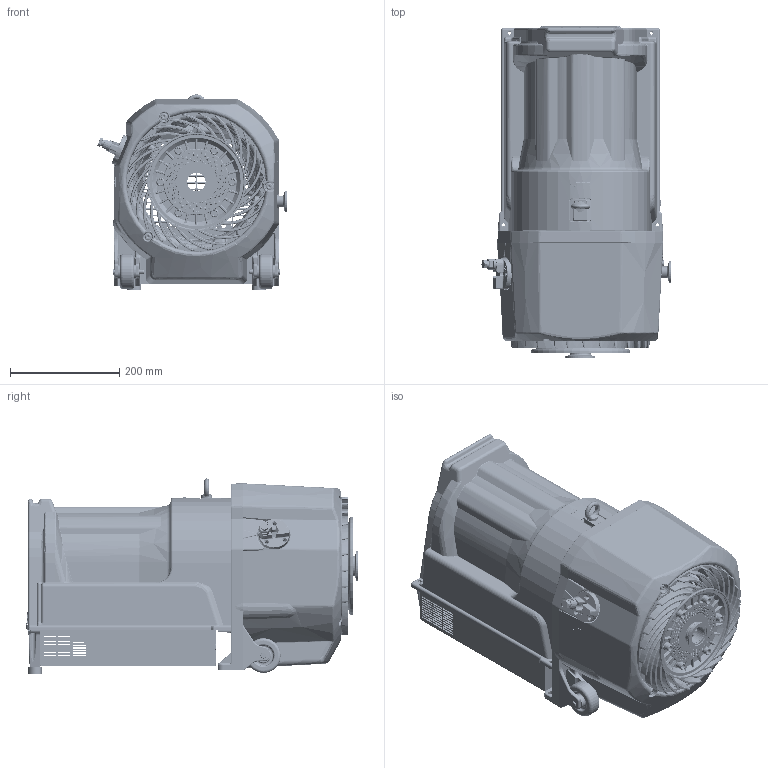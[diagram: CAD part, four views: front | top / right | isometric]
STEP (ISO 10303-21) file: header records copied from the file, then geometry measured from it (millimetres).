
FILE_DESCRIPTION(/* description */ (''),/* implementation_level */ '2;1');
FILE_NAME(/* name */ 'X3845-60043_1.00-IDP 45 Shell Layout_ Base Model.stp',/* time_stamp */ '2024-05-15T10:39:04-04:00',/* author */ (''),/* organization */ (''),/* preprocessor_version */ 'ST-DEVELOPER v18.102',/* originating_system */ 'SIEMENS PLM Software NX2206.9102',/* authorisation */ '');
FILE_SCHEMA (('AUTOMOTIVE_DESIGN { 1 0 10303 214 3 1 1 1 }'));
Products named in the file (29): 1480-1492_A.00-PIN CLVS SLL 0.313X1.875 ST; 1000132905_1.00-M6x10 Comp limiter- Spirol-281752; 611810025_A.00-EYEBOLT M8 X 1.25 BOSSARD BN268; X3835-42001_1.04-Support Wheels; X3835-43005_4.03-Cast Frame_ Machined_MODEL; N23-AEU-17_1.07-Insert_ Gas Ballast; N22-AAC-26_1.09-Knob_ Gas Ballast_ Plastic_ HT35; 24-AHC-23_1.01-IDP-45 Front Cowl Artwork; X3835-42015_1.03-Rear Finger Guard_ALIGNMENT; X3835-42002_6.07-Rear Cowling; 9135-6286_A.02-FLTR-PWR Line EMI_EMC M 3-POS 250V 20A; 0960-3496_A.00-SW-Rocker DPST 20A 125V; X3835-00011_3.02-VFD Display Panel; 648099055_A.00-RUBBER FOOT_ MFG 425-402 with washer; X3835-20246_1.00-VFD Support; X3835-00009_3.02-VFD Bottom Cover; X3835-00007_3.03-Electronics Box; 642971040_A.00-FILTER_ BREATHER VENT; X3835-42014_1.04-Thermal Shield; X3835-20038_3.06-HT After Cooler; X3835-20183_1.03-Exhaust Fitting_ One Piece; 0515-6155_A.50-SCR SKT-HEAD-Cap HEX M6X1 20 Steel BK; X3835-20232_1.03-Slic Pin_ .313in x 1.875in_MODEL; X3835-60102_2.03-Frame and Wheel Subassembly; X3835-42008_1.15-Knob_ Gas Ballast with Overmolded Insert; X3845-42001_2.07-Front Cowling_ HT45_MODELNX-ARRAGMNTWith compression
 limiters; X3845-42003_1.02-IDP-45 Front Cowling with Artwork; X3835-60133_1.02-Rear Cowling_ With Finger Guard_NX-ARRAGMNTArrangeme
nt 1; X3845-60043_1.00-IDP 45 Shell Layout_ Base Model
Assembly tree (40 placements, depth 4):
  X3845-60043_1.00-IDP 45 Shell Layout_ Base Model
    X3835-60133_1.02-Rear Cowling_ With Finger Guard_NX-ARRAGMNTArrangeme
nt 1
      X3835-42002_6.07-Rear Cowling
      X3835-42015_1.03-Rear Finger Guard_ALIGNMENT
    X3845-42003_1.02-IDP-45 Front Cowling with Artwork
      X3845-42001_2.07-Front Cowling_ HT45_MODELNX-ARRAGMNTWith compression
 limiters
        1000132905_1.00-M6x10 Comp limiter- Spirol-281752  x3
      24-AHC-23_1.01-IDP-45 Front Cowl Artwork  x2
    0515-6155_A.50-SCR SKT-HEAD-Cap HEX M6X1 20 Steel BK  x7
    X3835-20183_1.03-Exhaust Fitting_ One Piece
    X3835-20038_3.06-HT After Cooler
    X3835-42014_1.04-Thermal Shield
    X3835-42008_1.15-Knob_ Gas Ballast with Overmolded Insert
      N22-AAC-26_1.09-Knob_ Gas Ballast_ Plastic_ HT35
      N23-AEU-17_1.07-Insert_ Gas Ballast
    642971040_A.00-FILTER_ BREATHER VENT
    X3835-60102_2.03-Frame and Wheel Subassembly
      X3835-43005_4.03-Cast Frame_ Machined_MODEL
      X3835-42001_1.04-Support Wheels  x2
      611810025_A.00-EYEBOLT M8 X 1.25 BOSSARD BN268
      X3835-20232_1.03-Slic Pin_ .313in x 1.875in_MODEL  x2
        1480-1492_A.00-PIN CLVS SLL 0.313X1.875 ST
    X3835-00007_3.03-Electronics Box
    X3835-00009_3.02-VFD Bottom Cover
    X3835-20246_1.00-VFD Support
    648099055_A.00-RUBBER FOOT_ MFG 425-402 with washer  x2
    X3835-00011_3.02-VFD Display Panel
    0960-3496_A.00-SW-Rocker DPST 20A 125V
    9135-6286_A.02-FLTR-PWR Line EMI_EMC M 3-POS 250V 20A
Bounding box: 346.44 x 608.03 x 357.51 mm (x, y, z)
Volume: 4684139.1 mm3; surface area: 2379603.4 mm2
Topology: 108 solids, 109 shells, 21352 faces, 51132 edges, 29449 vertices
Faces by surface type: bspline 7127, cylinder 5170, plane 4605, torus 2145, cone 1852, sphere 368, extrusion 84, revolution 1
Full cylindrical faces by diameter (mm): 0.418 x6, 0.42 x10, 0.63 x16, 0.908 x4, 0.91 x12, 1 x4, 1.284 x14, 1.286 x2, 1.5 x4, 2.459 x2, 2.565 x1, 3 x7, 3.2 x6, 3.3 x3, 3.5 x2, 3.69 x2, 4 x4, 4.039 x2, 4.1 x1, 4.19 x2, 4.22 x2, 5 x6, 5.2 x1, 5.512 x6, 5.664 x2, 5.9 x2, 6 x1, 6.3 x2, 6.35 x2, 6.6 x10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
Entity records: 777447 total; most frequent: CARTESIAN_POINT 315797, ORIENTED_EDGE 96666, DIRECTION 84918, EDGE_CURVE 48333, AXIS2_PLACEMENT_3D 34281, VERTEX_POINT 28344, EDGE_LOOP 22694, ADVANCED_FACE 20832
